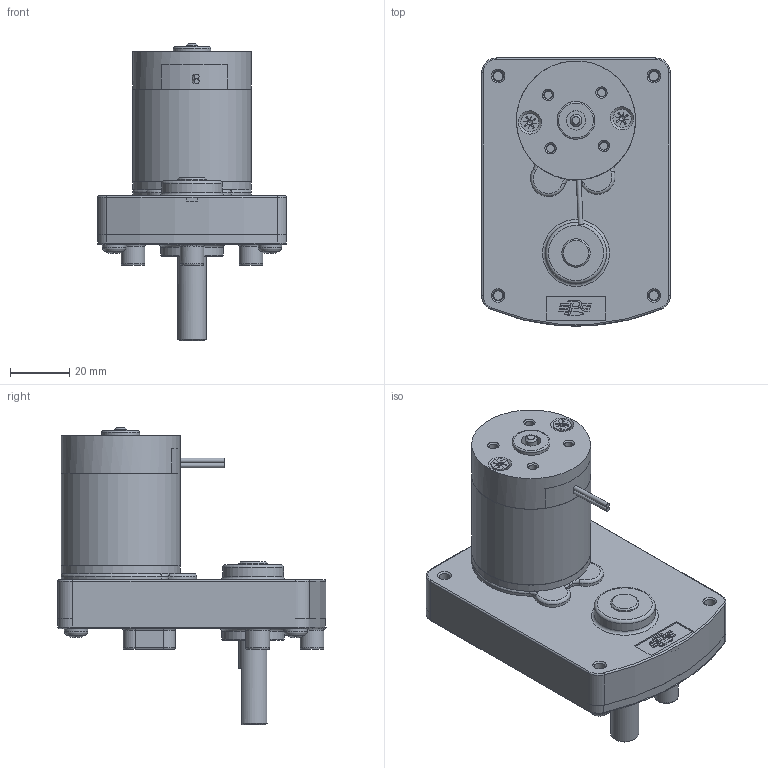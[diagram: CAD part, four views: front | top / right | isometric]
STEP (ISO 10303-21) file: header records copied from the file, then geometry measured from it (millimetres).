
FILE_DESCRIPTION(/* description */ (''),/* implementation_level */ '2;1');
FILE_NAME(/* name */ 'C:\Users\byjeong\Desktop\3D도면\SR42L.stp',/* time_stamp */ '2015-03-31T14:53:34+09:00',/* author */ ('byjeong'),/* organization */ (''),/* preprocessor_version */ 'ST-DEVELOPER v15.6',/* originating_system */ 'Autodesk Inventor 2015',/* authorisation */ '');
FILE_SCHEMA (('AUTOMOTIVE_DESIGN { 1 0 10303 214 3 1 1 }'));
Length unit declared in the file: millimetre
Products named in the file (10): SR BOX ASSY; RM4TYPE_FRONT_HOUSING_; RM4TYPE_PIPE_HOUSING_pi40XL31.2; RM42TYPE_SHAFT; AS 1427 Z - 미터 M3.5 x 5; RM4TYPE_BRUSH_BRAKET_LEAD; RM4TYPE_REAR_HOUSING; REAR_HOUSING__ASS'Y_LEAD; RM42ㅁBL; 조립품2
Bounding box: 63.5 x 90.14 x 100.17 mm (x, y, z)
Volume: 66272.2 mm3; surface area: 53997.8 mm2
Topology: 11 solids, 20 shells, 629 faces, 1527 edges, 971 vertices
Faces by surface type: plane 269, cylinder 159, cone 128, torus 68, sphere 4, bspline 1
Full cylindrical faces by diameter (mm): 1.6 x2, 2.5 x1, 2.7 x4, 2.8 x4, 3 x3, 3.132 x2, 3.4 x7, 3.5 x2, 3.571 x4, 3.6 x6, 3.7 x2, 3.969 x1, 4 x8, 4.4 x6, 4.45 x1, 5 x1, 6.1 x2, 6.5 x1, 6.65 x1, 8 x3, 9.525 x2, 9.528 x1, 9.565 x2, 12.7 x3, 14.3 x3, 16.6 x1, 17.6 x1, 20.5 x1, 21 x1, 23 x1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
Entity records: 17239 total; most frequent: CARTESIAN_POINT 4040, DIRECTION 2826, ORIENTED_EDGE 2450, EDGE_CURVE 1220, AXIS2_PLACEMENT_3D 1175, VERTEX_POINT 863, EDGE_LOOP 826, FACE_OUTER_BOUND 588
